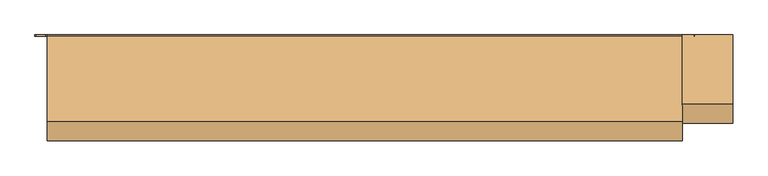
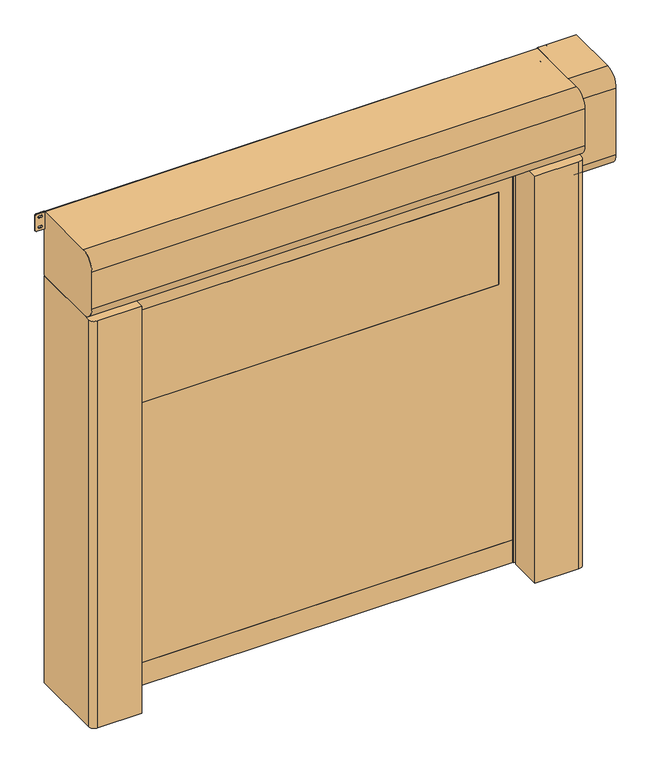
"""IFC4 building model written with IfcOpenShell, lengths in millimetres: door geometry, DO_WPB_Dynamicroll Frigo_Air_BMP : Dynamicroll Air."""

from ifc_helpers import new_model, si_unit, point, frame, frame_2d, origin, origin_with_axes, place, context, project, spatial, polyline, circle_curve, trimmed, segment, composite_curve, outline, extrude, source, transform, mapped, element, save


def door_781c7d04(model_context):
    return source(origin(), model_context, "Body", "SweptSolid", [
        extrude(outline(composite_curve([segment(trimmed(circle_curve(frame_2d((1416.6666667, 1171.0)), 6.0), [point((1422.6666667, 1171.0))], [point((1410.6666667, 1171.0))], False, "CARTESIAN"), True, "CONTINUOUS"), segment(polyline([(1410.6666667, 1171.0), (1410.6666667, 1189.0)]), True, "CONTINUOUS"), segment(trimmed(circle_curve(frame_2d((1416.6666667, 1189.0)), 6.0), [point((1410.6666667, 1189.0))], [point((1422.6666667, 1189.0))], False, "CARTESIAN"), True, "CONTINUOUS"), segment(polyline([(1422.6666667, 1189.0), (1422.6666667, 1171.0)]), True, "CONTINUOUS")], self_intersect=False)), frame((0.0, -20.0, 0.0), z_axis=(0.0, 1.0, 0.0), x_axis=(0.0, 0.0, 1.0)), (0.0, 0.0, 1.0), 20.0),
        extrude(outline(composite_curve([segment(trimmed(circle_curve(frame_2d((783.3333333, 1171.0)), 6.0), [point((789.3333333, 1171.0))], [point((777.3333333, 1171.0))], False, "CARTESIAN"), True, "CONTINUOUS"), segment(polyline([(777.3333333, 1171.0), (777.3333333, 1189.0)]), True, "CONTINUOUS"), segment(trimmed(circle_curve(frame_2d((783.3333333, 1189.0)), 6.0), [point((777.3333333, 1189.0))], [point((789.3333333, 1189.0))], False, "CARTESIAN"), True, "CONTINUOUS"), segment(polyline([(789.3333333, 1189.0), (789.3333333, 1171.0)]), True, "CONTINUOUS")], self_intersect=False)), frame((0.0, -20.0, 0.0), z_axis=(0.0, 1.0, 0.0), x_axis=(0.0, 0.0, 1.0)), (0.0, 0.0, 1.0), 20.0),
        extrude(outline(composite_curve([segment(trimmed(circle_curve(frame_2d((2050.0, 1171.0)), 6.0), [point((2056.0, 1171.0))], [point((2044.0, 1171.0))], False, "CARTESIAN"), True, "CONTINUOUS"), segment(polyline([(2044.0, 1171.0), (2044.0, 1189.0)]), True, "CONTINUOUS"), segment(trimmed(circle_curve(frame_2d((2050.0, 1189.0)), 6.0), [point((2044.0, 1189.0))], [point((2056.0, 1189.0))], False, "CARTESIAN"), True, "CONTINUOUS"), segment(polyline([(2056.0, 1189.0), (2056.0, 1171.0)]), True, "CONTINUOUS")], self_intersect=False)), frame((0.0, -20.0, 0.0), z_axis=(0.0, 1.0, 0.0), x_axis=(0.0, 0.0, 1.0)), (0.0, 0.0, 1.0), 20.0),
        extrude(outline(composite_curve([segment(trimmed(circle_curve(frame_2d((150.0, 1171.0)), 6.0), [point((156.0, 1171.0))], [point((144.0, 1171.0))], False, "CARTESIAN"), True, "CONTINUOUS"), segment(polyline([(144.0, 1171.0), (144.0, 1189.0)]), True, "CONTINUOUS"), segment(trimmed(circle_curve(frame_2d((150.0, 1189.0)), 6.0), [point((144.0, 1189.0))], [point((156.0, 1189.0))], False, "CARTESIAN"), True, "CONTINUOUS"), segment(polyline([(156.0, 1189.0), (156.0, 1171.0)]), True, "CONTINUOUS")], self_intersect=False)), frame((0.0, -20.0, 0.0), z_axis=(0.0, 1.0, 0.0), x_axis=(0.0, 0.0, 1.0)), (0.0, 0.0, 1.0), 20.0),
        extrude(outline(composite_curve([segment(polyline([(1422.6666667, -1171.0), (1422.6666667, -1189.0)]), True, "CONTINUOUS"), segment(trimmed(circle_curve(frame_2d((1416.6666667, -1189.0)), 6.0), [point((1422.6666667, -1189.0))], [point((1410.6666667, -1189.0))], False, "CARTESIAN"), True, "CONTINUOUS"), segment(polyline([(1410.6666667, -1189.0), (1410.6666667, -1171.0)]), True, "CONTINUOUS"), segment(trimmed(circle_curve(frame_2d((1416.6666667, -1171.0)), 6.0), [point((1410.6666667, -1171.0))], [point((1422.6666667, -1171.0))], False, "CARTESIAN"), True, "CONTINUOUS")], self_intersect=False)), frame((0.0, -20.0, 0.0), z_axis=(0.0, 1.0, 0.0), x_axis=(0.0, 0.0, 1.0)), (0.0, 0.0, 1.0), 20.0),
        extrude(outline(composite_curve([segment(polyline([(789.3333333, -1171.0), (789.3333333, -1189.0)]), True, "CONTINUOUS"), segment(trimmed(circle_curve(frame_2d((783.3333333, -1189.0)), 6.0), [point((789.3333333, -1189.0))], [point((777.3333333, -1189.0))], False, "CARTESIAN"), True, "CONTINUOUS"), segment(polyline([(777.3333333, -1189.0), (777.3333333, -1171.0)]), True, "CONTINUOUS"), segment(trimmed(circle_curve(frame_2d((783.3333333, -1171.0)), 6.0), [point((777.3333333, -1171.0))], [point((789.3333333, -1171.0))], False, "CARTESIAN"), True, "CONTINUOUS")], self_intersect=False)), frame((0.0, -20.0, 0.0), z_axis=(0.0, 1.0, 0.0), x_axis=(0.0, 0.0, 1.0)), (0.0, 0.0, 1.0), 20.0),
        extrude(outline(composite_curve([segment(polyline([(2056.0, -1171.0), (2056.0, -1189.0)]), True, "CONTINUOUS"), segment(trimmed(circle_curve(frame_2d((2050.0, -1189.0)), 6.0), [point((2056.0, -1189.0))], [point((2044.0, -1189.0))], False, "CARTESIAN"), True, "CONTINUOUS"), segment(polyline([(2044.0, -1189.0), (2044.0, -1171.0)]), True, "CONTINUOUS"), segment(trimmed(circle_curve(frame_2d((2050.0, -1171.0)), 6.0), [point((2044.0, -1171.0))], [point((2056.0, -1171.0))], False, "CARTESIAN"), True, "CONTINUOUS")], self_intersect=False)), frame((0.0, -20.0, 0.0), z_axis=(0.0, 1.0, 0.0), x_axis=(0.0, 0.0, 1.0)), (0.0, 0.0, 1.0), 20.0),
        extrude(outline(composite_curve([segment(polyline([(156.0, -1171.0), (156.0, -1189.0)]), True, "CONTINUOUS"), segment(trimmed(circle_curve(frame_2d((150.0, -1189.0)), 6.0), [point((156.0, -1189.0))], [point((144.0, -1189.0))], False, "CARTESIAN"), True, "CONTINUOUS"), segment(polyline([(144.0, -1189.0), (144.0, -1171.0)]), True, "CONTINUOUS"), segment(trimmed(circle_curve(frame_2d((150.0, -1171.0)), 6.0), [point((144.0, -1171.0))], [point((156.0, -1171.0))], False, "CARTESIAN"), True, "CONTINUOUS")], self_intersect=False)), frame((0.0, -20.0, 0.0), z_axis=(0.0, 1.0, 0.0), x_axis=(0.0, 0.0, 1.0)), (0.0, 0.0, 1.0), 20.0),
        extrude(outline(composite_curve([segment(trimmed(circle_curve(frame_2d((1526.0, 929.0)), 1.0), [point((1525.0, 929.0))], [point((1526.0, 930.0))], False, "CARTESIAN"), True, "CONTINUOUS"), segment(polyline([(1526.0, 930.0), (2024.0, 930.0)]), True, "CONTINUOUS"), segment(trimmed(circle_curve(frame_2d((2024.0, 929.0)), 1.0), [point((2024.0, 930.0))], [point((2025.0, 929.0))], False, "CARTESIAN"), True, "CONTINUOUS"), segment(polyline([(2025.0, 929.0), (2025.0, -929.0)]), True, "CONTINUOUS"), segment(trimmed(circle_curve(frame_2d((2024.0, -929.0)), 1.0), [point((2025.0, -929.0))], [point((2024.0, -930.0))], False, "CARTESIAN"), True, "CONTINUOUS"), segment(polyline([(2024.0, -930.0), (1526.0, -930.0)]), True, "CONTINUOUS"), segment(trimmed(circle_curve(frame_2d((1526.0, -929.0)), 1.0), [point((1526.0, -930.0))], [point((1525.0, -929.0))], False, "CARTESIAN"), True, "CONTINUOUS"), segment(polyline([(1525.0, -929.0), (1525.0, 929.0)]), True, "CONTINUOUS")], self_intersect=False)), frame((0.0, -228.5, 0.0), z_axis=(0.0, 1.0, 0.0), x_axis=(0.0, 0.0, 1.0)), (0.0, 0.0, 1.0), 7.0),
        extrude(outline(polyline([(120.0, -1012.0), (120.0, 1012.0), (2375.0, 1012.0), (2375.0, -1012.0), (120.0, -1012.0)]), holes=[composite_curve([segment(trimmed(circle_curve(frame_2d((1526.0, 929.0)), 1.0), [point((1526.0, 930.0))], [point((1525.0, 929.0))], True, "CARTESIAN"), True, "CONTINUOUS"), segment(polyline([(1525.0, 929.0), (1525.0, -929.0)]), True, "CONTINUOUS"), segment(trimmed(circle_curve(frame_2d((1526.0, -929.0)), 1.0), [point((1525.0, -929.0))], [point((1526.0, -930.0))], True, "CARTESIAN"), True, "CONTINUOUS"), segment(polyline([(1526.0, -930.0), (2024.0, -930.0)]), True, "CONTINUOUS"), segment(trimmed(circle_curve(frame_2d((2024.0, -929.0)), 1.0), [point((2024.0, -930.0))], [point((2025.0, -929.0))], True, "CARTESIAN"), True, "CONTINUOUS"), segment(polyline([(2025.0, -929.0), (2025.0, 929.0)]), True, "CONTINUOUS"), segment(trimmed(circle_curve(frame_2d((2024.0, 929.0)), 1.0), [point((2025.0, 929.0))], [point((2024.0, 930.0))], True, "CARTESIAN"), True, "CONTINUOUS"), segment(polyline([(2024.0, 930.0), (1526.0, 930.0)]), True, "CONTINUOUS")], self_intersect=False)]), frame((0.0, -228.5, 0.0), z_axis=(0.0, 1.0, 0.0), x_axis=(0.0, 0.0, 1.0)), (0.0, 0.0, 1.0), 7.0),
        extrude(outline(polyline([(-1012.0, -219.5), (1012.0, -219.5), (1012.0, -230.5), (-1012.0, -230.5), (-1012.0, -219.5)])), origin_with_axes(), (0.0, 0.0, 1.0), 120.0),
        extrude(outline(composite_curve([segment(polyline([(-1260.0, 0.0), (-1015.0, 0.0), (-1015.0, -209.2857143), (-1035.0, -215.0), (-1000.0, -215.0), (-1000.0, -221.5), (-1020.0, -221.5), (-1020.0, -228.5), (-1000.0, -228.5), (-1000.0, -235.0), (-1035.0, -235.0), (-1035.0, -250.0), (-1005.0, -250.0), (-1005.0, -420.0), (-1230.0, -420.0)]), True, "CONTINUOUS"), segment(trimmed(circle_curve(frame_2d((-1230.0, -390.0)), 30.0), [point((-1230.0, -420.0))], [point((-1260.0, -390.0))], False, "CARTESIAN"), True, "CONTINUOUS"), segment(polyline([(-1260.0, -390.0), (-1260.0, 0.0)]), True, "CONTINUOUS")], self_intersect=False)), origin_with_axes(), (0.0, 0.0, 1.0), 2200.0),
        extrude(outline(composite_curve([segment(polyline([(1260.0, 0.0), (1260.0, -390.0)]), True, "CONTINUOUS"), segment(trimmed(circle_curve(frame_2d((1230.0, -390.0)), 30.0), [point((1260.0, -390.0))], [point((1230.0, -420.0))], False, "CARTESIAN"), True, "CONTINUOUS"), segment(polyline([(1230.0, -420.0), (1005.0, -420.0), (1005.0, -250.0), (1035.0, -250.0), (1035.0, -235.0), (1000.0, -235.0), (1000.0, -228.5), (1020.0, -228.5), (1020.0, -221.5), (1000.0, -221.5), (1000.0, -215.0), (1035.0, -215.0), (1015.0, -209.2857143), (1015.0, 0.0), (1260.0, 0.0)]), True, "CONTINUOUS")], self_intersect=False)), origin_with_axes(), (0.0, 0.0, 1.0), 2200.0),
        extrude(outline(composite_curve([segment(polyline([(0.0, 2550.0), (0.0, 2040.0), (-275.0, 2040.0)]), True, "CONTINUOUS"), segment(trimmed(circle_curve(frame_2d((-275.0, 2115.0)), 75.0), [point((-275.0, 2040.0))], [point((-350.0, 2115.0))], False, "CARTESIAN"), True, "CONTINUOUS"), segment(polyline([(-350.0, 2115.0), (-350.0, 2475.0)]), True, "CONTINUOUS"), segment(trimmed(circle_curve(frame_2d((-275.0, 2475.0)), 75.0), [point((-350.0, 2475.0))], [point((-275.0, 2550.0))], False, "CARTESIAN"), True, "CONTINUOUS"), segment(polyline([(-275.0, 2550.0), (0.0, 2550.0)]), True, "CONTINUOUS")], self_intersect=False)), frame((1260.0, 0.0, 0.0), z_axis=(1.0, 0.0, 0.0), x_axis=(0.0, 1.0, 0.0)), (0.0, 0.0, 1.0), 200.0),
        extrude(outline(composite_curve([segment(trimmed(circle_curve(frame_2d((-5.0, 2205.0)), 5.0), [point((0.0, 2205.0))], [point((-5.0, 2200.0))], False, "CARTESIAN"), True, "CONTINUOUS"), segment(polyline([(-5.0, 2200.0), (-345.0, 2200.0)]), True, "CONTINUOUS"), segment(trimmed(circle_curve(frame_2d((-345.0, 2275.0)), 75.0), [point((-345.0, 2200.0))], [point((-420.0, 2275.0))], False, "CARTESIAN"), True, "CONTINUOUS"), segment(polyline([(-420.0, 2275.0), (-420.0, 2475.0)]), True, "CONTINUOUS"), segment(trimmed(circle_curve(frame_2d((-345.0, 2475.0)), 75.0), [point((-420.0, 2475.0))], [point((-345.0, 2550.0))], False, "CARTESIAN"), True, "CONTINUOUS"), segment(polyline([(-345.0, 2550.0), (-5.0, 2550.0)]), True, "CONTINUOUS"), segment(trimmed(circle_curve(frame_2d((-5.0, 2545.0)), 5.0), [point((-5.0, 2550.0))], [point((0.0, 2545.0))], False, "CARTESIAN"), True, "CONTINUOUS"), segment(polyline([(0.0, 2545.0), (0.0, 2205.0)]), True, "CONTINUOUS")], self_intersect=False)), frame((-1260.0, 0.0, 0.0), z_axis=(1.0, 0.0, 0.0), x_axis=(0.0, 1.0, 0.0)), (0.0, 0.0, 1.0), 2520.0),
        extrude(outline(composite_curve([segment(trimmed(circle_curve(frame_2d((2463.75, 1265.75)), 5.75), [point((2463.75, 1260.0))], [point((2458.0, 1265.75))], False, "CARTESIAN"), True, "CONTINUOUS"), segment(polyline([(2458.0, 1265.75), (2458.0, 1303.25)]), True, "CONTINUOUS"), segment(trimmed(circle_curve(frame_2d((2463.75, 1303.25)), 5.75), [point((2458.0, 1303.25))], [point((2463.75, 1309.0))], False, "CARTESIAN"), True, "CONTINUOUS"), segment(polyline([(2463.75, 1309.0), (2544.25, 1309.0)]), True, "CONTINUOUS"), segment(trimmed(circle_curve(frame_2d((2544.25, 1303.25)), 5.75), [point((2544.25, 1309.0))], [point((2550.0, 1303.25))], False, "CARTESIAN"), True, "CONTINUOUS"), segment(polyline([(2550.0, 1303.25), (2550.0, 1265.75)]), True, "CONTINUOUS"), segment(trimmed(circle_curve(frame_2d((2544.25, 1265.75)), 5.75), [point((2550.0, 1265.75))], [point((2544.25, 1260.0))], False, "CARTESIAN"), True, "CONTINUOUS"), segment(polyline([(2544.25, 1260.0), (2463.75, 1260.0)]), True, "CONTINUOUS")], self_intersect=False), holes=[composite_curve([segment(trimmed(circle_curve(frame_2d((2476.5, 1288.75)), 5.75), [point((2482.25, 1288.75))], [point((2470.75, 1288.75))], True, "CARTESIAN"), True, "CONTINUOUS"), segment(polyline([(2470.75, 1288.75), (2470.75, 1280.25)]), True, "CONTINUOUS"), segment(trimmed(circle_curve(frame_2d((2476.5, 1280.25)), 5.75), [point((2470.75, 1280.25))], [point((2482.25, 1280.25))], True, "CARTESIAN"), True, "CONTINUOUS"), segment(polyline([(2482.25, 1280.25), (2482.25, 1288.75)]), True, "CONTINUOUS")], self_intersect=False), composite_curve([segment(trimmed(circle_curve(frame_2d((2531.5, 1288.75)), 5.75), [point((2537.25, 1288.75))], [point((2525.75, 1288.75))], True, "CARTESIAN"), True, "CONTINUOUS"), segment(polyline([(2525.75, 1288.75), (2525.75, 1280.25)]), True, "CONTINUOUS"), segment(trimmed(circle_curve(frame_2d((2531.5, 1280.25)), 5.75), [point((2525.75, 1280.25))], [point((2537.25, 1280.25))], True, "CARTESIAN"), True, "CONTINUOUS"), segment(polyline([(2537.25, 1280.25), (2537.25, 1288.75)]), True, "CONTINUOUS")], self_intersect=False)]), frame((0.0, -5.0, 0.0), z_axis=(0.0, 1.0, 0.0), x_axis=(0.0, 0.0, 1.0)), (0.0, 0.0, 1.0), 5.0),
        extrude(outline(composite_curve([segment(trimmed(circle_curve(frame_2d((2463.75, -1303.25)), 5.75), [point((2463.75, -1309.0))], [point((2458.0, -1303.25))], False, "CARTESIAN"), True, "CONTINUOUS"), segment(polyline([(2458.0, -1303.25), (2458.0, -1265.75)]), True, "CONTINUOUS"), segment(trimmed(circle_curve(frame_2d((2463.75, -1265.75)), 5.75), [point((2458.0, -1265.75))], [point((2463.75, -1260.0))], False, "CARTESIAN"), True, "CONTINUOUS"), segment(polyline([(2463.75, -1260.0), (2544.25, -1260.0)]), True, "CONTINUOUS"), segment(trimmed(circle_curve(frame_2d((2544.25, -1265.75)), 5.75), [point((2544.25, -1260.0))], [point((2550.0, -1265.75))], False, "CARTESIAN"), True, "CONTINUOUS"), segment(polyline([(2550.0, -1265.75), (2550.0, -1303.25)]), True, "CONTINUOUS"), segment(trimmed(circle_curve(frame_2d((2544.25, -1303.25)), 5.75), [point((2550.0, -1303.25))], [point((2544.25, -1309.0))], False, "CARTESIAN"), True, "CONTINUOUS"), segment(polyline([(2544.25, -1309.0), (2463.75, -1309.0)]), True, "CONTINUOUS")], self_intersect=False), holes=[composite_curve([segment(trimmed(circle_curve(frame_2d((2476.5, -1280.25)), 5.75), [point((2482.25, -1280.25))], [point((2470.75, -1280.25))], True, "CARTESIAN"), True, "CONTINUOUS"), segment(polyline([(2470.75, -1280.25), (2470.75, -1288.75)]), True, "CONTINUOUS"), segment(trimmed(circle_curve(frame_2d((2476.5, -1288.75)), 5.75), [point((2470.75, -1288.75))], [point((2482.25, -1288.75))], True, "CARTESIAN"), True, "CONTINUOUS"), segment(polyline([(2482.25, -1288.75), (2482.25, -1280.25)]), True, "CONTINUOUS")], self_intersect=False), composite_curve([segment(trimmed(circle_curve(frame_2d((2531.5, -1280.25)), 5.75), [point((2537.25, -1280.25))], [point((2525.75, -1280.25))], True, "CARTESIAN"), True, "CONTINUOUS"), segment(polyline([(2525.75, -1280.25), (2525.75, -1288.75)]), True, "CONTINUOUS"), segment(trimmed(circle_curve(frame_2d((2531.5, -1288.75)), 5.75), [point((2525.75, -1288.75))], [point((2537.25, -1288.75))], True, "CARTESIAN"), True, "CONTINUOUS"), segment(polyline([(2537.25, -1288.75), (2537.25, -1280.25)]), True, "CONTINUOUS")], self_intersect=False)]), frame((0.0, -5.0, 0.0), z_axis=(0.0, 1.0, 0.0), x_axis=(0.0, 0.0, 1.0)), (0.0, 0.0, 1.0), 5.0),
    ])


if __name__ == "__main__":
    model = new_model("IFC4")
    model_context = context("Model", 3, world=origin())
    ifc_project = project(units=[si_unit("LENGTHUNIT", "METRE", prefix="MILLI")], contexts=[model_context])
    site = spatial("IfcSite", under=ifc_project)
    building = spatial("IfcBuilding", under=site)
    placement = place(None, origin())
    door_shape = door_781c7d04(model_context)
    element("IfcDoor", 1, ObjectType="DO_WPB_Dynamicroll Frigo_Air_BMP : Dynamicroll Air", at=placement, inside=building, context=model_context, shape_type="MappedRepresentation", body=[
        mapped(door_shape, transform((0.0, 0.0, 0.0), x_axis=(1.0, 0.0, 0.0), y_axis=(0.0, 1.0, 0.0), z_axis=(0.0, 0.0, 1.0))),
    ])
    save(model, "model.ifc")
